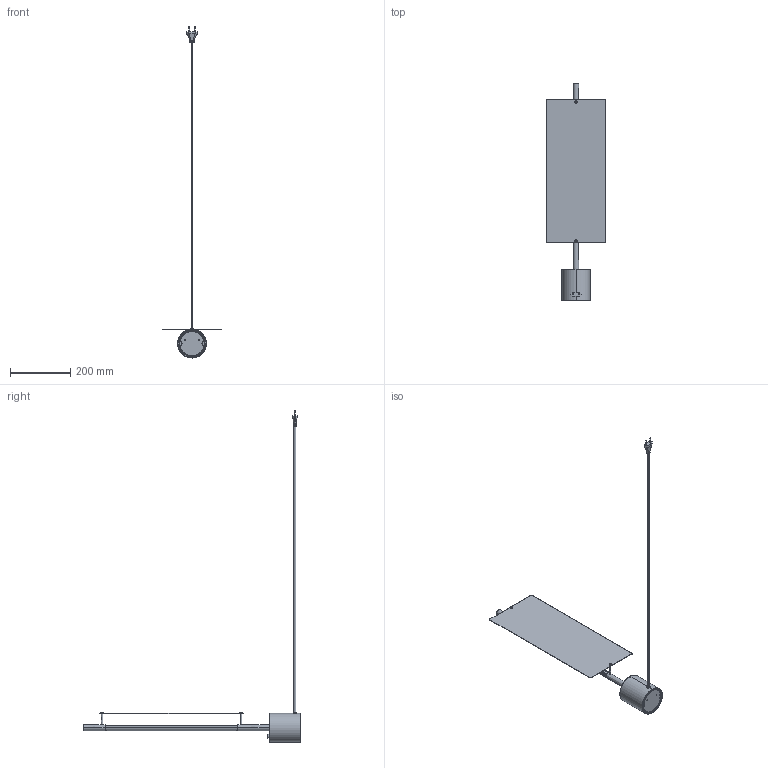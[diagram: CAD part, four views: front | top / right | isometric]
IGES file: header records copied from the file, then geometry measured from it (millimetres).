
Start section: SolidWorks IGES file using analytic representation for surfaces
Global section: file name: C:\SANTACOLE_PDM\Proyectos Catálogo\PROD-P21-004 -- LAMINA VERTICAL\6_Técnico comercial\3D\IGES\Lamina Plana sobremesa.IGS; native system: SolidWorks 2021; preprocessor: SolidWorks 2021; author: clara.galimany; date: 221216.160235; units: millimetre
Bounding box: 198.4 x 723.15 x 1102.71 mm (x, y, z)
Surface area: 381011.9 mm2 (no closed solid volume)
Topology: 0 solids, 0 shells, 479 faces, 5135 edges, 5123 vertices
Faces by surface type: revolution 241, bspline 238
